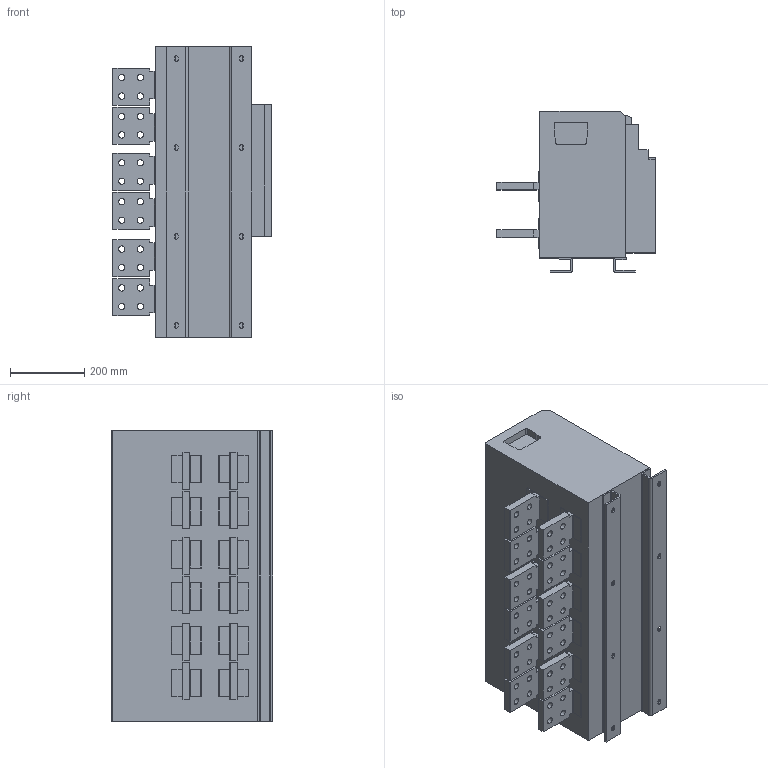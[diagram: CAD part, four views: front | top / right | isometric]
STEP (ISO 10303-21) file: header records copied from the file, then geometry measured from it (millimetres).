
FILE_DESCRIPTION (( 'STEP AP203' ), '1' );
FILE_NAME ('BWA-6300V-Fixed-3P-4000~6300A.STEP', '2024-11-08T05:12:29', ( '' ), ( '' ), 'SwSTEP 2.0', 'SolidWorks 2017', '' );
FILE_SCHEMA (( 'CONFIG_CONTROL_DESIGN' ));
Length unit declared in the file: millimetre
Products named in the file (1): BWA-6300V-Fixed-3P-4000~6300A
Bounding box: 429 x 435 x 786 mm (x, y, z)
Volume: 84172244 mm3; surface area: 2511360.6 mm2
Topology: 3 solids, 3 shells, 942 faces, 2592 edges, 1727 vertices
Faces by surface type: plane 528, bspline 211, cylinder 203
Entity records: 41377 total; most frequent: CARTESIAN_POINT 18117, ORIENTED_EDGE 5184, DIRECTION 4040, EDGE_CURVE 2592, VECTOR 1764, LINE 1764, VERTEX_POINT 1727, AXIS2_PLACEMENT_3D 1138
